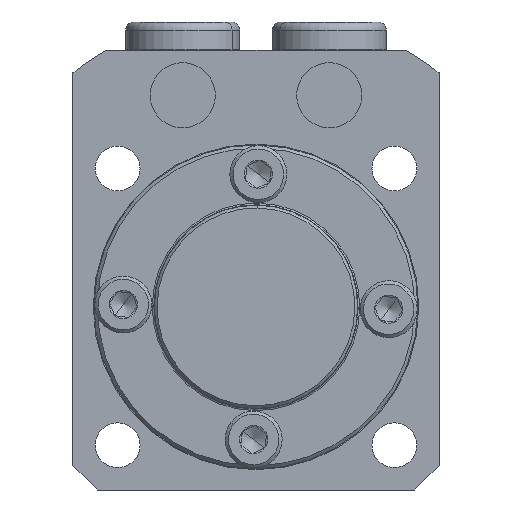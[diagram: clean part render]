
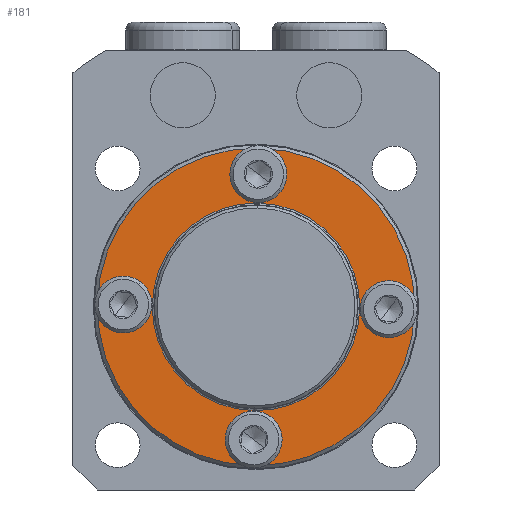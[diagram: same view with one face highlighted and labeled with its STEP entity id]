
A CAD part, front view. The second image highlights one B-rep face of the part: STEP entity #181.
In plain terms, the highlighted planar face has unit normal (0, -1, 0).
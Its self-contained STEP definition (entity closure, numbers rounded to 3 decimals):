
#181 = ADVANCED_FACE ( 'NONE', ( #5853, #5855, #5857, #5859, #5852, #5854 ), #5861, .F. ) ;
#1055 = VERTEX_POINT ( 'NONE', #1545 ) ;
#1057 = VERTEX_POINT ( 'NONE', #1546 ) ;
#1066 = VERTEX_POINT ( 'NONE', #1551 ) ;
#1080 = VERTEX_POINT ( 'NONE', #1558 ) ;
#1100 = VERTEX_POINT ( 'NONE', #1568 ) ;
#1102 = VERTEX_POINT ( 'NONE', #1569 ) ;
#1108 = VERTEX_POINT ( 'NONE', #1572 ) ;
#1110 = VERTEX_POINT ( 'NONE', #1573 ) ;
#1116 = VERTEX_POINT ( 'NONE', #1576 ) ;
#1118 = VERTEX_POINT ( 'NONE', #1577 ) ;
#1124 = VERTEX_POINT ( 'NONE', #1580 ) ;
#1126 = VERTEX_POINT ( 'NONE', #1581 ) ;
#1545 = CARTESIAN_POINT ( 'NONE',  ( 0., -4., 19.5 ) ) ;
#1546 = CARTESIAN_POINT ( 'NONE',  ( 0., -4., -12.75 ) ) ;
#1551 = CARTESIAN_POINT ( 'NONE',  ( 0., -4., 12.75 ) ) ;
#1558 = CARTESIAN_POINT ( 'NONE',  ( 0., -4., -19.5 ) ) ;
#1568 = CARTESIAN_POINT ( 'NONE',  ( 16.3, -4., 2.25 ) ) ;
#1569 = CARTESIAN_POINT ( 'NONE',  ( 16.3, -4., -2.25 ) ) ;
#1572 = CARTESIAN_POINT ( 'NONE',  ( 0., -4., -14.05 ) ) ;
#1573 = CARTESIAN_POINT ( 'NONE',  ( 0., -4., -18.55 ) ) ;
#1576 = CARTESIAN_POINT ( 'NONE',  ( -16.3, -4., 2.25 ) ) ;
#1577 = CARTESIAN_POINT ( 'NONE',  ( -16.3, -4., -2.25 ) ) ;
#1580 = CARTESIAN_POINT ( 'NONE',  ( 0., -4., 18.55 ) ) ;
#1581 = CARTESIAN_POINT ( 'NONE',  ( 0., -4., 14.05 ) ) ;
#1889 = EDGE_LOOP ( 'NONE', ( #6062, #6063 ) ) ;
#1892 = EDGE_LOOP ( 'NONE', ( #6070, #6071 ) ) ;
#1898 = EDGE_LOOP ( 'NONE', ( #6072, #6073 ) ) ;
#1910 = EDGE_LOOP ( 'NONE', ( #6064, #6065 ) ) ;
#1912 = EDGE_LOOP ( 'NONE', ( #6068, #6069 ) ) ;
#1914 = EDGE_LOOP ( 'NONE', ( #6066, #6067 ) ) ;
#2268 = EDGE_CURVE ( 'NONE', #1057, #1066, #4474, .T. ) ;
#2275 = EDGE_CURVE ( 'NONE', #1080, #1055, #4486, .T. ) ;
#2285 = EDGE_CURVE ( 'NONE', #1100, #1102, #4502, .T. ) ;
#2289 = EDGE_CURVE ( 'NONE', #1108, #1110, #6896, .T. ) ;
#2293 = EDGE_CURVE ( 'NONE', #1116, #1118, #6899, .T. ) ;
#2297 = EDGE_CURVE ( 'NONE', #1124, #1126, #6906, .T. ) ;
#2606 = CARTESIAN_POINT ( 'NONE',  ( 0., -4., 0. ) ) ;
#2607 = DIRECTION ( 'NONE',  ( 0., 1., 0. ) ) ;
#2608 = DIRECTION ( 'NONE',  ( 0., 0., 1. ) ) ;
#2628 = CARTESIAN_POINT ( 'NONE',  ( 0., -4., 0. ) ) ;
#2629 = DIRECTION ( 'NONE',  ( 0., -1., 0. ) ) ;
#2630 = DIRECTION ( 'NONE',  ( 0., 0., 1. ) ) ;
#2658 = CARTESIAN_POINT ( 'NONE',  ( 16.3, -4., 0. ) ) ;
#2659 = DIRECTION ( 'NONE',  ( 0., -1., 0. ) ) ;
#2660 = DIRECTION ( 'NONE',  ( -1., 0., 0. ) ) ;
#2670 = CARTESIAN_POINT ( 'NONE',  ( 0., -4., -16.3 ) ) ;
#2671 = DIRECTION ( 'NONE',  ( 0., -1., 0. ) ) ;
#2672 = DIRECTION ( 'NONE',  ( 0., 0., 1. ) ) ;
#2682 = CARTESIAN_POINT ( 'NONE',  ( -16.3, -4., 0. ) ) ;
#2683 = DIRECTION ( 'NONE',  ( 0., -1., 0. ) ) ;
#2684 = DIRECTION ( 'NONE',  ( 1., 0., 0. ) ) ;
#2696 = CARTESIAN_POINT ( 'NONE',  ( 0., -4., 16.3 ) ) ;
#2697 = DIRECTION ( 'NONE',  ( 0., -1., 0. ) ) ;
#2698 = DIRECTION ( 'NONE',  ( 0., 0., -1. ) ) ;
#2713 = CARTESIAN_POINT ( 'NONE',  ( 0., -4., 0. ) ) ;
#2714 = DIRECTION ( 'NONE',  ( 0., 1., 0. ) ) ;
#2715 = DIRECTION ( 'NONE',  ( 0., 0., 1. ) ) ;
#2716 = CARTESIAN_POINT ( 'NONE',  ( 0., -4., 0. ) ) ;
#2717 = DIRECTION ( 'NONE',  ( 0., -1., 0. ) ) ;
#2718 = DIRECTION ( 'NONE',  ( 0., 0., 1. ) ) ;
#2719 = CARTESIAN_POINT ( 'NONE',  ( 16.3, -4., 0. ) ) ;
#2720 = DIRECTION ( 'NONE',  ( 0., -1., 0. ) ) ;
#2721 = DIRECTION ( 'NONE',  ( -1., 0., 0. ) ) ;
#2722 = CARTESIAN_POINT ( 'NONE',  ( 0., -4., -16.3 ) ) ;
#2723 = DIRECTION ( 'NONE',  ( 0., -1., 0. ) ) ;
#2724 = DIRECTION ( 'NONE',  ( 0., 0., 1. ) ) ;
#2725 = CARTESIAN_POINT ( 'NONE',  ( -16.3, -4., 0. ) ) ;
#2726 = DIRECTION ( 'NONE',  ( 0., -1., 0. ) ) ;
#2727 = DIRECTION ( 'NONE',  ( 1., 0., 0. ) ) ;
#2728 = CARTESIAN_POINT ( 'NONE',  ( 0., -4., 16.3 ) ) ;
#2729 = DIRECTION ( 'NONE',  ( 0., -1., 0. ) ) ;
#2730 = DIRECTION ( 'NONE',  ( 0., 0., -1. ) ) ;
#3388 = AXIS2_PLACEMENT_3D ( 'NONE', #5858, #5862, #5863 ) ;
#4474 = CIRCLE ( 'NONE', #4479, 12.75 ) ;
#4479 = AXIS2_PLACEMENT_3D ( 'NONE', #2606, #2607, #2608 ) ;
#4486 = CIRCLE ( 'NONE', #4491, 19.5 ) ;
#4491 = AXIS2_PLACEMENT_3D ( 'NONE', #2628, #2629, #2630 ) ;
#4502 = CIRCLE ( 'NONE', #4506, 2.25 ) ;
#4506 = AXIS2_PLACEMENT_3D ( 'NONE', #2658, #2659, #2660 ) ;
#4583 = EDGE_CURVE ( 'NONE', #1066, #1057, #6916, .T. ) ;
#4584 = EDGE_CURVE ( 'NONE', #1055, #1080, #6918, .T. ) ;
#4585 = EDGE_CURVE ( 'NONE', #1102, #1100, #6920, .T. ) ;
#4586 = EDGE_CURVE ( 'NONE', #1110, #1108, #6922, .T. ) ;
#4587 = EDGE_CURVE ( 'NONE', #1118, #1116, #6924, .T. ) ;
#4588 = EDGE_CURVE ( 'NONE', #1126, #1124, #6926, .T. ) ;
#5852 = FACE_BOUND ( 'NONE', #1892, .T. ) ;
#5853 = FACE_BOUND ( 'NONE', #1889, .T. ) ;
#5854 = FACE_BOUND ( 'NONE', #1898, .T. ) ;
#5855 = FACE_OUTER_BOUND ( 'NONE', #1910, .T. ) ;
#5857 = FACE_BOUND ( 'NONE', #1914, .T. ) ;
#5858 = CARTESIAN_POINT ( 'NONE',  ( 0., -4., 0. ) ) ;
#5859 = FACE_BOUND ( 'NONE', #1912, .T. ) ;
#5861 = PLANE ( 'NONE',  #3388 ) ;
#5862 = DIRECTION ( 'NONE',  ( 0., 1., 0. ) ) ;
#5863 = DIRECTION ( 'NONE',  ( 0., 0., 1. ) ) ;
#6062 = ORIENTED_EDGE ( 'NONE', *, *, #4583, .T. ) ;
#6063 = ORIENTED_EDGE ( 'NONE', *, *, #2268, .T. ) ;
#6064 = ORIENTED_EDGE ( 'NONE', *, *, #4584, .T. ) ;
#6065 = ORIENTED_EDGE ( 'NONE', *, *, #2275, .T. ) ;
#6066 = ORIENTED_EDGE ( 'NONE', *, *, #4585, .F. ) ;
#6067 = ORIENTED_EDGE ( 'NONE', *, *, #2285, .F. ) ;
#6068 = ORIENTED_EDGE ( 'NONE', *, *, #4586, .F. ) ;
#6069 = ORIENTED_EDGE ( 'NONE', *, *, #2289, .F. ) ;
#6070 = ORIENTED_EDGE ( 'NONE', *, *, #4587, .F. ) ;
#6071 = ORIENTED_EDGE ( 'NONE', *, *, #2293, .F. ) ;
#6072 = ORIENTED_EDGE ( 'NONE', *, *, #4588, .F. ) ;
#6073 = ORIENTED_EDGE ( 'NONE', *, *, #2297, .F. ) ;
#6896 = CIRCLE ( 'NONE', #6897, 2.25 ) ;
#6897 = AXIS2_PLACEMENT_3D ( 'NONE', #2670, #2671, #2672 ) ;
#6899 = CIRCLE ( 'NONE', #6904, 2.25 ) ;
#6904 = AXIS2_PLACEMENT_3D ( 'NONE', #2682, #2683, #2684 ) ;
#6906 = CIRCLE ( 'NONE', #6910, 2.25 ) ;
#6910 = AXIS2_PLACEMENT_3D ( 'NONE', #2696, #2697, #2698 ) ;
#6916 = CIRCLE ( 'NONE', #6919, 12.75 ) ;
#6918 = CIRCLE ( 'NONE', #6921, 19.5 ) ;
#6919 = AXIS2_PLACEMENT_3D ( 'NONE', #2713, #2714, #2715 ) ;
#6920 = CIRCLE ( 'NONE', #6923, 2.25 ) ;
#6921 = AXIS2_PLACEMENT_3D ( 'NONE', #2716, #2717, #2718 ) ;
#6922 = CIRCLE ( 'NONE', #6925, 2.25 ) ;
#6923 = AXIS2_PLACEMENT_3D ( 'NONE', #2719, #2720, #2721 ) ;
#6924 = CIRCLE ( 'NONE', #6927, 2.25 ) ;
#6925 = AXIS2_PLACEMENT_3D ( 'NONE', #2722, #2723, #2724 ) ;
#6926 = CIRCLE ( 'NONE', #6929, 2.25 ) ;
#6927 = AXIS2_PLACEMENT_3D ( 'NONE', #2725, #2726, #2727 ) ;
#6929 = AXIS2_PLACEMENT_3D ( 'NONE', #2728, #2729, #2730 ) ;
